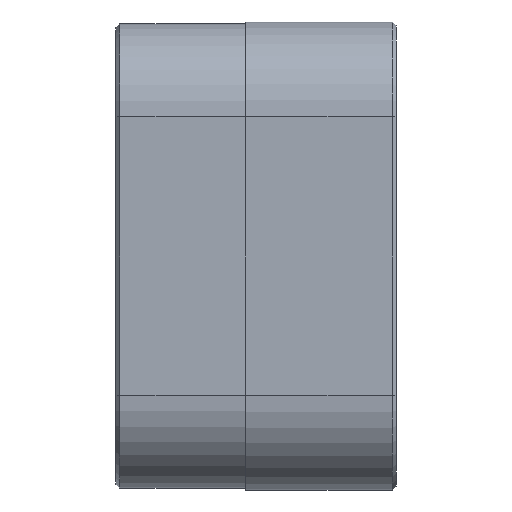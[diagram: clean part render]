
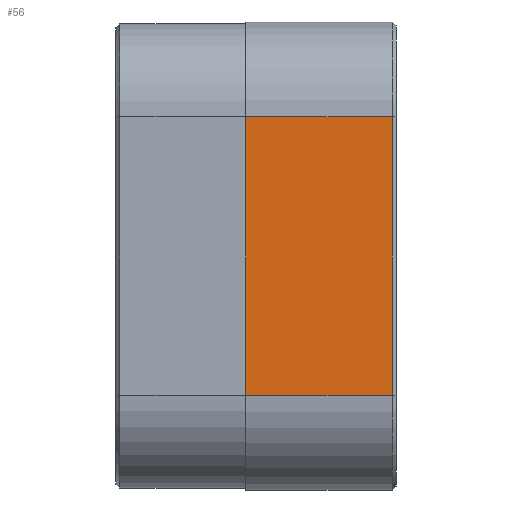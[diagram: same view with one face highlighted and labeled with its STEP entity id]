
A CAD part, left-side view. The second image highlights one B-rep face of the part: STEP entity #56.
In plain terms, the highlighted planar face has unit normal (-1, 0, 0).
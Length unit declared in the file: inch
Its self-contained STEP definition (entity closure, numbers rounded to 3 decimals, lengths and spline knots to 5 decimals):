
#12 = EDGE_LOOP ( 'NONE', ( #26, #23, #57, #63 ) ) ;
#19 = EDGE_CURVE ( 'NONE', #68, #20, #648, .T. ) ;
#20 = VERTEX_POINT ( 'NONE', #522 ) ;
#21 = EDGE_CURVE ( 'NONE', #69, #71, #641, .T. ) ;
#23 = ORIENTED_EDGE ( 'NONE', *, *, #21, .T. ) ;
#24 = EDGE_CURVE ( 'NONE', #68, #69, #647, .T. ) ;
#26 = ORIENTED_EDGE ( 'NONE', *, *, #24, .T. ) ;
#56 = ADVANCED_FACE ( 'NONE', ( #494 ), #499, .F. ) ;
#57 = ORIENTED_EDGE ( 'NONE', *, *, #65, .T. ) ;
#63 = ORIENTED_EDGE ( 'NONE', *, *, #19, .F. ) ;
#65 = EDGE_CURVE ( 'NONE', #71, #20, #483, .T. ) ;
#68 = VERTEX_POINT ( 'NONE', #500 ) ;
#69 = VERTEX_POINT ( 'NONE', #710 ) ;
#71 = VERTEX_POINT ( 'NONE', #491 ) ;
#482 = CARTESIAN_POINT ( 'NONE',  ( -1.995, 1.49, 0.74 ) ) ;
#483 = LINE ( 'NONE', #482, #709 ) ;
#484 = DIRECTION ( 'NONE',  ( 0., 0., -1. ) ) ;
#485 = DIRECTION ( 'NONE',  ( 1., 0., 0. ) ) ;
#491 = CARTESIAN_POINT ( 'NONE',  ( -1.995, 0.02, 0.74 ) ) ;
#494 = FACE_OUTER_BOUND ( 'NONE', #12, .T. ) ;
#499 = PLANE ( 'NONE',  #639 ) ;
#500 = CARTESIAN_POINT ( 'NONE',  ( -1.995, 0.8, -0.74 ) ) ;
#509 = CARTESIAN_POINT ( 'NONE',  ( -1.995, 1.49, -1.245 ) ) ;
#522 = CARTESIAN_POINT ( 'NONE',  ( -1.995, 0.8, 0.74 ) ) ;
#632 = VECTOR ( 'NONE', #656, 39.37008 ) ;
#636 = DIRECTION ( 'NONE',  ( 0., 0., 1. ) ) ;
#637 = VECTOR ( 'NONE', #636, 39.37008 ) ;
#639 = AXIS2_PLACEMENT_3D ( 'NONE', #509, #485, #484 ) ;
#640 = CARTESIAN_POINT ( 'NONE',  ( -1.995, 0.02, 0.74 ) ) ;
#641 = LINE ( 'NONE', #640, #637 ) ;
#642 = DIRECTION ( 'NONE',  ( 0., 0., 1. ) ) ;
#643 = VECTOR ( 'NONE', #642, 39.37008 ) ;
#644 = CARTESIAN_POINT ( 'NONE',  ( -1.995, 0.8, -1.245 ) ) ;
#647 = LINE ( 'NONE', #657, #632 ) ;
#648 = LINE ( 'NONE', #644, #643 ) ;
#656 = DIRECTION ( 'NONE',  ( 0., -1., 0. ) ) ;
#657 = CARTESIAN_POINT ( 'NONE',  ( -1.995, 1.49, -0.74 ) ) ;
#708 = DIRECTION ( 'NONE',  ( 0., 1., 0. ) ) ;
#709 = VECTOR ( 'NONE', #708, 39.37008 ) ;
#710 = CARTESIAN_POINT ( 'NONE',  ( -1.995, 0.02, -0.74 ) ) ;
